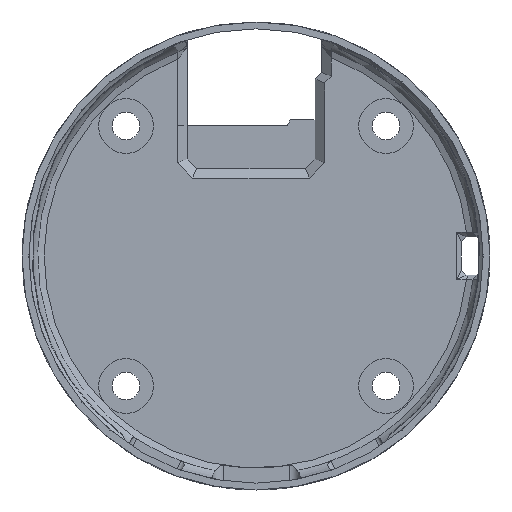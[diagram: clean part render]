
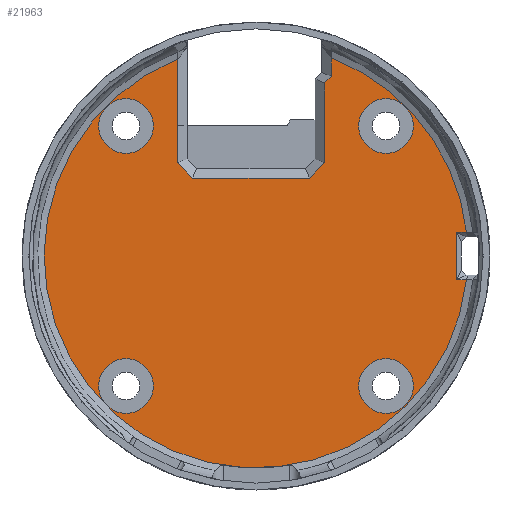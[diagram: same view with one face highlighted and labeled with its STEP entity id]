
A CAD part, left-side view. The second image highlights one B-rep face of the part: STEP entity #21963.
In plain terms, the highlighted planar face has unit normal (-1, 0, 0).
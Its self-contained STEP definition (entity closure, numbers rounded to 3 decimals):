
#26=FACE_BOUND('',#4503,.T.);
#27=FACE_BOUND('',#4504,.T.);
#28=FACE_BOUND('',#4505,.T.);
#29=FACE_BOUND('',#4506,.T.);
#191=LINE('',#26983,#1606);
#196=LINE('',#27222,#1611);
#198=LINE('',#27229,#1613);
#203=LINE('',#27353,#1618);
#204=LINE('',#27355,#1619);
#205=LINE('',#27357,#1620);
#206=LINE('',#27359,#1621);
#207=LINE('',#27361,#1622);
#208=LINE('',#27363,#1623);
#209=LINE('',#27365,#1624);
#210=LINE('',#27367,#1625);
#1606=VECTOR('',#23670,10.);
#1611=VECTOR('',#23689,10.);
#1613=VECTOR('',#23693,10.);
#1618=VECTOR('',#23726,10.);
#1619=VECTOR('',#23727,10.);
#1620=VECTOR('',#23728,10.);
#1621=VECTOR('',#23729,10.);
#1622=VECTOR('',#23730,10.);
#1623=VECTOR('',#23731,10.);
#1624=VECTOR('',#23732,10.);
#1625=VECTOR('',#23733,10.);
#3002=PLANE('',#23239);
#3254=FACE_OUTER_BOUND('',#4502,.T.);
#4502=EDGE_LOOP('',(#14088,#14089,#14090,#14091,#14092,#14093,#14094,#14095,
#14096,#14097,#14098,#14099,#14100));
#4503=EDGE_LOOP('',(#14101));
#4504=EDGE_LOOP('',(#14102));
#4505=EDGE_LOOP('',(#14103));
#4506=EDGE_LOOP('',(#14104));
#5783=CIRCLE('',#23229,22.184);
#5788=CIRCLE('',#23240,22.184);
#5789=CIRCLE('',#23241,2.864);
#5790=CIRCLE('',#23242,2.864);
#5791=CIRCLE('',#23243,2.864);
#5792=CIRCLE('',#23244,2.864);
#7978=VERTEX_POINT('',#26970);
#7981=VERTEX_POINT('',#26977);
#7998=VERTEX_POINT('',#27221);
#7999=VERTEX_POINT('',#27228);
#8001=VERTEX_POINT('',#27239);
#8015=VERTEX_POINT('',#27352);
#8016=VERTEX_POINT('',#27354);
#8017=VERTEX_POINT('',#27356);
#8018=VERTEX_POINT('',#27358);
#8019=VERTEX_POINT('',#27360);
#8020=VERTEX_POINT('',#27362);
#8021=VERTEX_POINT('',#27364);
#8022=VERTEX_POINT('',#27366);
#8023=VERTEX_POINT('',#27369);
#8024=VERTEX_POINT('',#27371);
#8025=VERTEX_POINT('',#27373);
#8026=VERTEX_POINT('',#27375);
#10373=EDGE_CURVE('',#7981,#7978,#191,.T.);
#10399=EDGE_CURVE('',#7998,#7981,#196,.T.);
#10402=EDGE_CURVE('',#7978,#7999,#198,.T.);
#10408=EDGE_CURVE('',#8001,#7998,#5783,.T.);
#10425=EDGE_CURVE('',#8015,#8001,#203,.T.);
#10426=EDGE_CURVE('',#8016,#8015,#204,.T.);
#10427=EDGE_CURVE('',#8017,#8016,#205,.T.);
#10428=EDGE_CURVE('',#8018,#8017,#206,.T.);
#10429=EDGE_CURVE('',#8019,#8018,#207,.T.);
#10430=EDGE_CURVE('',#8020,#8019,#208,.T.);
#10431=EDGE_CURVE('',#8021,#8020,#209,.T.);
#10432=EDGE_CURVE('',#8022,#8021,#210,.T.);
#10433=EDGE_CURVE('',#7999,#8022,#5788,.T.);
#10434=EDGE_CURVE('',#8023,#8023,#5789,.T.);
#10435=EDGE_CURVE('',#8024,#8024,#5790,.T.);
#10436=EDGE_CURVE('',#8025,#8025,#5791,.T.);
#10437=EDGE_CURVE('',#8026,#8026,#5792,.T.);
#14088=ORIENTED_EDGE('',*,*,#10399,.F.);
#14089=ORIENTED_EDGE('',*,*,#10408,.F.);
#14090=ORIENTED_EDGE('',*,*,#10425,.F.);
#14091=ORIENTED_EDGE('',*,*,#10426,.F.);
#14092=ORIENTED_EDGE('',*,*,#10427,.F.);
#14093=ORIENTED_EDGE('',*,*,#10428,.F.);
#14094=ORIENTED_EDGE('',*,*,#10429,.F.);
#14095=ORIENTED_EDGE('',*,*,#10430,.F.);
#14096=ORIENTED_EDGE('',*,*,#10431,.F.);
#14097=ORIENTED_EDGE('',*,*,#10432,.F.);
#14098=ORIENTED_EDGE('',*,*,#10433,.F.);
#14099=ORIENTED_EDGE('',*,*,#10402,.F.);
#14100=ORIENTED_EDGE('',*,*,#10373,.F.);
#14101=ORIENTED_EDGE('',*,*,#10434,.T.);
#14102=ORIENTED_EDGE('',*,*,#10435,.T.);
#14103=ORIENTED_EDGE('',*,*,#10436,.T.);
#14104=ORIENTED_EDGE('',*,*,#10437,.T.);
#21963=ADVANCED_FACE('',(#3254,#26,#27,#28,#29),#3002,.F.);
#23229=AXIS2_PLACEMENT_3D('',#27243,#23702,#23703);
#23239=AXIS2_PLACEMENT_3D('',#27351,#23724,#23725);
#23240=AXIS2_PLACEMENT_3D('',#27368,#23734,#23735);
#23241=AXIS2_PLACEMENT_3D('',#27370,#23736,#23737);
#23242=AXIS2_PLACEMENT_3D('',#27372,#23738,#23739);
#23243=AXIS2_PLACEMENT_3D('',#27374,#23740,#23741);
#23244=AXIS2_PLACEMENT_3D('',#27376,#23742,#23743);
#23670=DIRECTION('',(0.,0.,-1.));
#23689=DIRECTION('',(0.,1.,0.));
#23693=DIRECTION('',(0.,-1.,0.));
#23702=DIRECTION('center_axis',(1.,0.,0.));
#23703=DIRECTION('ref_axis',(0.,0.,
-1.));
#23724=DIRECTION('center_axis',(1.,0.,0.));
#23725=DIRECTION('ref_axis',(0.,1.,0.));
#23726=DIRECTION('',(0.,0.,1.));
#23727=DIRECTION('',(0.,-0.707,0.707));
#23728=DIRECTION('',(0.,0.,1.));
#23729=DIRECTION('',(0.,-0.707,0.707));
#23730=DIRECTION('',(0.,-1.,0.));
#23731=DIRECTION('',(0.,-0.707,-0.707));
#23732=DIRECTION('',(0.,0.,-1.));
#23733=DIRECTION('',(0.,0.,-1.));
#23734=DIRECTION('center_axis',(1.,0.,0.));
#23735=DIRECTION('ref_axis',(0.,0.,
-1.));
#23736=DIRECTION('center_axis',(1.,0.,0.));
#23737=DIRECTION('ref_axis',(0.,1.,0.));
#23738=DIRECTION('center_axis',(1.,0.,0.));
#23739=DIRECTION('ref_axis',(0.,1.,0.));
#23740=DIRECTION('center_axis',(1.,0.,0.));
#23741=DIRECTION('ref_axis',(0.,1.,0.));
#23742=DIRECTION('center_axis',(1.,0.,0.));
#23743=DIRECTION('ref_axis',(0.,1.,0.));
#26970=CARTESIAN_POINT('',(24.87,-21.,-2.5));
#26977=CARTESIAN_POINT('',(24.87,-21.,2.5));
#26983=CARTESIAN_POINT('',(24.87,-21.,0.736));
#27221=CARTESIAN_POINT('',(24.87,-22.043,2.5));
#27222=CARTESIAN_POINT('',(24.87,-12.209,2.5));
#27228=CARTESIAN_POINT('',(24.87,-22.043,-2.5));
#27229=CARTESIAN_POINT('',(24.87,-10.75,-2.5));
#27239=CARTESIAN_POINT('',(24.87,-7.878,20.738));
#27243=CARTESIAN_POINT('Origin',(24.87,0.,
0.));
#27351=CARTESIAN_POINT('Origin',(24.87,0.,
-0.528));
#27352=CARTESIAN_POINT('',(24.87,-7.878,18.823));
#27353=CARTESIAN_POINT('',(24.87,-7.878,11.066));
#27354=CARTESIAN_POINT('',(24.87,-7.178,18.123));
#27355=CARTESIAN_POINT('',(24.87,-0.924,11.869));
#27356=CARTESIAN_POINT('',(24.87,-7.178,9.747));
#27357=CARTESIAN_POINT('',(24.87,-7.178,9.004));
#27358=CARTESIAN_POINT('',(24.87,-5.592,8.161));
#27359=CARTESIAN_POINT('',(24.87,-2.668,5.237));
#27360=CARTESIAN_POINT('',(24.87,6.636,8.161));
#27361=CARTESIAN_POINT('',(24.87,-2.589,8.161));
#27362=CARTESIAN_POINT('',(24.87,8.222,9.747));
#27363=CARTESIAN_POINT('',(24.87,2.951,4.476));
#27364=CARTESIAN_POINT('',(24.87,8.222,13.661));
#27365=CARTESIAN_POINT('',(24.87,8.222,4.816));
#27366=CARTESIAN_POINT('',(24.87,8.222,20.604));
#27367=CARTESIAN_POINT('',(24.87,8.222,6.566));
#27368=CARTESIAN_POINT('Origin',(24.87,0.,
0.));
#27369=CARTESIAN_POINT('',(24.87,-16.476,-13.612));
#27370=CARTESIAN_POINT('Origin',(24.87,-13.612,-13.612));
#27371=CARTESIAN_POINT('',(24.87,10.748,-13.612));
#27372=CARTESIAN_POINT('Origin',(24.87,13.612,-13.612));
#27373=CARTESIAN_POINT('',(24.87,-16.476,13.612));
#27374=CARTESIAN_POINT('Origin',(24.87,-13.612,13.612));
#27375=CARTESIAN_POINT('',(24.87,10.748,13.612));
#27376=CARTESIAN_POINT('Origin',(24.87,13.612,13.612));
